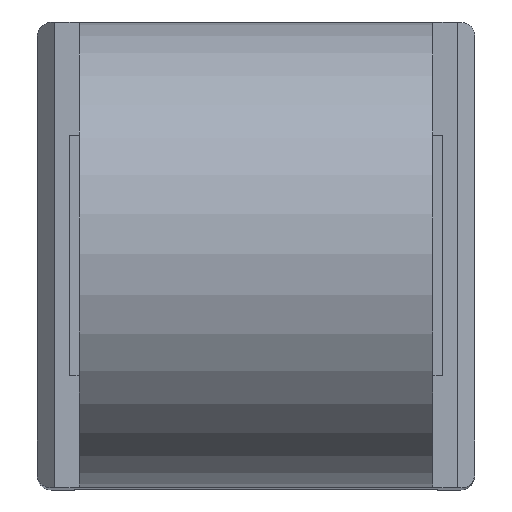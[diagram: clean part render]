
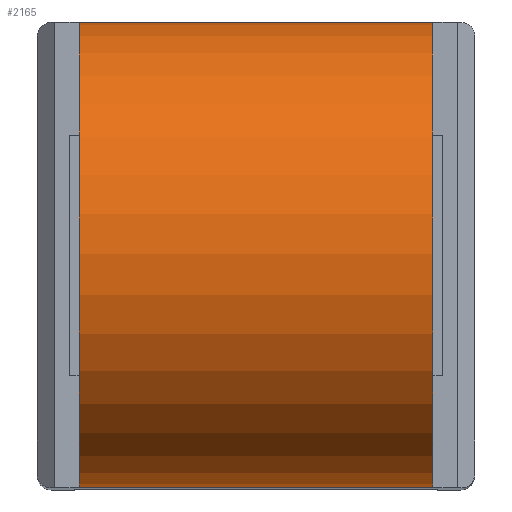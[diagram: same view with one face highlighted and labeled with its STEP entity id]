
A CAD part, top view. The second image highlights one B-rep face of the part: STEP entity #2165.
In plain terms, the highlighted cylindrical face has radius 25 mm (diameter 50 mm), a partial arc.
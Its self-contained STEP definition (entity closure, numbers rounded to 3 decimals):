
#221=LINE('',#3550,#423);
#222=LINE('',#3553,#424);
#423=VECTOR('',#2895,1.);
#424=VECTOR('',#2898,1.);
#550=CYLINDRICAL_SURFACE('',#2394,25.);
#635=FACE_OUTER_BOUND('',#789,.T.);
#789=EDGE_LOOP('',(#1768,#1769,#1770,#1771));
#937=CIRCLE('',#2393,25.);
#938=CIRCLE('',#2395,25.);
#1096=VERTEX_POINT('',#3539);
#1097=VERTEX_POINT('',#3541);
#1100=VERTEX_POINT('',#3549);
#1101=VERTEX_POINT('',#3551);
#1348=EDGE_CURVE('',#1097,#1096,#937,.T.);
#1352=EDGE_CURVE('',#1100,#1096,#221,.T.);
#1353=EDGE_CURVE('',#1100,#1101,#938,.T.);
#1354=EDGE_CURVE('',#1101,#1097,#222,.T.);
#1768=ORIENTED_EDGE('',*,*,#1348,.T.);
#1769=ORIENTED_EDGE('',*,*,#1352,.F.);
#1770=ORIENTED_EDGE('',*,*,#1353,.T.);
#1771=ORIENTED_EDGE('',*,*,#1354,.T.);
#2165=ADVANCED_FACE('',(#635),#550,.T.);
#2393=AXIS2_PLACEMENT_3D('',#3542,#2888,#2889);
#2394=AXIS2_PLACEMENT_3D('',#3548,#2893,#2894);
#2395=AXIS2_PLACEMENT_3D('',#3552,#2896,#2897);
#2888=DIRECTION('center_axis',(-1.,0.,0.));
#2889=DIRECTION('ref_axis',(0.,0.,-1.));
#2893=DIRECTION('center_axis',(1.,0.,0.));
#2894=DIRECTION('ref_axis',(0.,0.,1.));
#2895=DIRECTION('',(1.,0.,0.));
#2896=DIRECTION('center_axis',(1.,0.,0.));
#2897=DIRECTION('ref_axis',(0.,0.,-1.));
#2898=DIRECTION('',(1.,0.,0.));
#3539=CARTESIAN_POINT('',(19.,25.,273.));
#3541=CARTESIAN_POINT('',(19.,-25.,273.));
#3542=CARTESIAN_POINT('Origin',(19.,0.,273.));
#3548=CARTESIAN_POINT('Origin',(-23.5,0.,273.));
#3549=CARTESIAN_POINT('',(-19.,25.,273.));
#3550=CARTESIAN_POINT('',(-23.5,25.,273.));
#3551=CARTESIAN_POINT('',(-19.,-25.,273.));
#3552=CARTESIAN_POINT('Origin',(-19.,0.,273.));
#3553=CARTESIAN_POINT('',(-23.5,-25.,273.));
